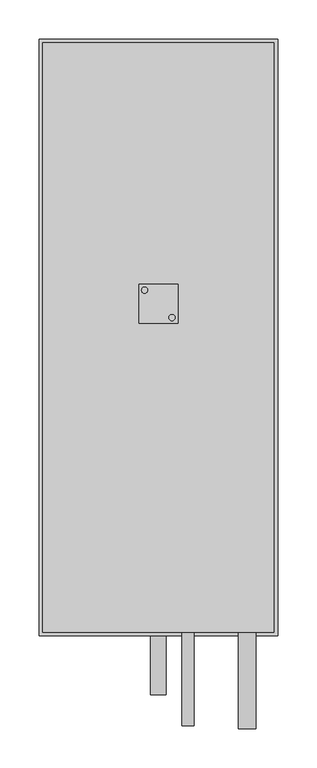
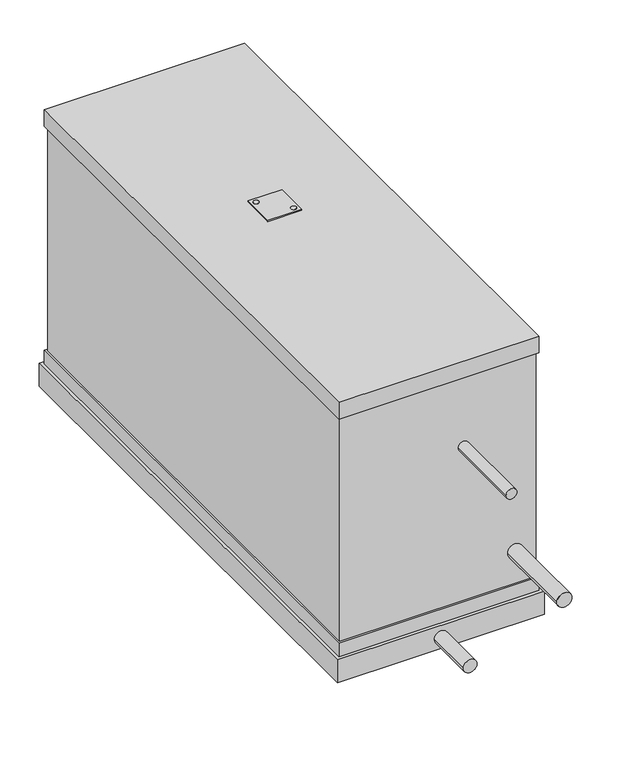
"""IFC4 building model written with IfcOpenShell, lengths in millimetres: proxy geometry, KORF_Воздухоохладитель_Фреоновый_FLO_Левый : FLO 60-35."""

from ifc_helpers import new_model, si_unit, point, frame, frame_2d, origin, place, context, project, spatial, polyline, circle_curve, trimmed, segment, composite_curve, outline, extrude, faceted_brep, source, transform, mapped, element, save


def mechanical_equipment_1e1dd59d(model_context):
    return source(origin(), model_context, "Body", "SolidModel", [
        extrude(outline(composite_curve([segment(trimmed(circle_curve(frame_2d((170.5727066, -17.5745746)), 4.0), [point((174.5727066, -17.5745746))], [point((166.5727066, -17.5745746))], False, "CARTESIAN"), True, "CONTINUOUS"), segment(trimmed(circle_curve(frame_2d((170.5727066, -17.5745746)), 4.0), [point((166.5727066, -17.5745746))], [point((174.5727066, -17.5745746))], False, "CARTESIAN"), True, "CONTINUOUS")], self_intersect=False)), frame((0.0, 0.0, 201.0), z_axis=(0.0, 0.0, 1.0), x_axis=(1.0, 0.0, 0.0)), (0.0, 0.0, 1.0), 2.0),
        extrude(outline(composite_curve([segment(trimmed(circle_curve(frame_2d((135.4272934, 17.5745746)), 4.0), [point((131.4272934, 17.5745746))], [point((139.4272934, 17.5745746))], False, "CARTESIAN"), True, "CONTINUOUS"), segment(trimmed(circle_curve(frame_2d((135.4272934, 17.5745746)), 4.0), [point((139.4272934, 17.5745746))], [point((131.4272934, 17.5745746))], False, "CARTESIAN"), True, "CONTINUOUS")], self_intersect=False)), frame((0.0, 0.0, 201.0), z_axis=(0.0, 0.0, 1.0), x_axis=(1.0, 0.0, 0.0)), (0.0, 0.0, 1.0), 2.0),
        extrude(outline(polyline([(128.0, -25.0), (128.0, 25.0), (178.0, 25.0), (178.0, -25.0), (128.0, -25.0)]), holes=[composite_curve([segment(trimmed(circle_curve(frame_2d((170.5727066, -17.5745746)), 4.0), [point((174.5727066, -17.5745746))], [point((166.5727066, -17.5745746))], True, "CARTESIAN"), True, "CONTINUOUS"), segment(trimmed(circle_curve(frame_2d((170.5727066, -17.5745746)), 4.0), [point((166.5727066, -17.5745746))], [point((174.5727066, -17.5745746))], True, "CARTESIAN"), True, "CONTINUOUS")], self_intersect=False), composite_curve([segment(trimmed(circle_curve(frame_2d((135.4272934, 17.5745746)), 4.0), [point((131.4272934, 17.5745746))], [point((139.4272934, 17.5745746))], True, "CARTESIAN"), True, "CONTINUOUS"), segment(trimmed(circle_curve(frame_2d((135.4272934, 17.5745746)), 4.0), [point((139.4272934, 17.5745746))], [point((131.4272934, 17.5745746))], True, "CARTESIAN"), True, "CONTINUOUS")], self_intersect=False)]), frame((0.0, 0.0, 201.0), z_axis=(0.0, 0.0, 1.0), x_axis=(1.0, 0.0, 0.0)), (0.0, 0.0, 1.0), 2.0),
        faceted_brep([(306.0, -425.0, -196.0), (306.0, -425.0, -232.0), (306.0, 339.0, -232.0), (306.0, 339.0, -196.0), (0.0, -425.0, -196.0), (0.0, 339.0, -196.0), (0.0, 339.0, -232.0), (0.0, -425.0, -232.0), (301.0, 334.0, -196.0), (301.0, -420.0, -196.0), (5.0, -420.0, -196.0), (5.0, 334.0, -196.0), (298.0, -417.0, 175.0), (298.0, -417.0, -175.0), (298.0, -300.0, -175.0), (298.0, 300.0, -175.0), (298.0, 331.0, -175.0), (298.0, 331.0, 175.0), (298.0, 300.0, 175.0), (298.0, -300.0, 175.0), (8.0, 331.0, 175.0), (8.0, 331.0, -175.0), (8.0, 300.0, -175.0), (8.0, -300.0, -175.0), (8.0, -417.0, -175.0), (8.0, -417.0, 175.0), (8.0, -300.0, 175.0), (8.0, 300.0, 175.0), (301.0, -420.0, 175.0), (301.0, 334.0, 175.0), (301.0, 334.0, 201.0), (301.0, -420.0, 201.0), (301.0, -420.0, -175.0), (301.0, 334.0, -175.0), (5.0, -420.0, 175.0), (5.0, -420.0, 201.0), (5.0, 334.0, 201.0), (5.0, 334.0, 175.0), (5.0, -420.0, -175.0), (5.0, 334.0, -175.0)], [[[0, 1, 2, 3]], [[4, 5, 6, 7]], [[1, 0, 4, 7]], [[2, 1, 7, 6]], [[3, 2, 6, 5]], [[0, 3, 5, 4], [8, 9, 10, 11]], [[12, 13, 14, 15, 16, 17, 18, 19]], [[20, 21, 22, 23, 24, 25, 26, 27]], [[13, 12, 25, 24]], [[17, 16, 21, 20]], [[28, 29, 30, 31]], [[32, 9, 8, 33]], [[34, 35, 36, 37]], [[38, 39, 11, 10]], [[29, 28, 34, 37], [12, 19, 18, 17, 20, 27, 26, 25]], [[30, 29, 37, 36]], [[31, 30, 36, 35]], [[28, 31, 35, 34]], [[9, 32, 38, 10]], [[33, 8, 11, 39]], [[32, 33, 39, 38], [14, 13, 24, 23, 22, 21, 16, 15]]]),
        extrude(outline(composite_curve([segment(trimmed(circle_curve(frame_2d((-124.0, 267.0)), 11.11), [point((-124.0, 255.89))], [point((-124.0, 278.11))], False, "CARTESIAN"), True, "CONTINUOUS"), segment(trimmed(circle_curve(frame_2d((-124.0, 267.0)), 11.11), [point((-124.0, 278.11))], [point((-124.0, 255.89))], False, "CARTESIAN"), True, "CONTINUOUS")], self_intersect=False)), frame((0.0, -544.0, 0.0), z_axis=(0.0, 1.0, 0.0), x_axis=(0.0, 0.0, 1.0)), (0.0, 0.0, 1.0), 127.0),
        extrude(outline(composite_curve([segment(trimmed(circle_curve(frame_2d((66.0, 191.0)), 7.94), [point((66.0, 183.06))], [point((66.0, 198.94))], False, "CARTESIAN"), True, "CONTINUOUS"), segment(trimmed(circle_curve(frame_2d((66.0, 191.0)), 7.94), [point((66.0, 198.94))], [point((66.0, 183.06))], False, "CARTESIAN"), True, "CONTINUOUS")], self_intersect=False)), frame((0.0, -540.0, 0.0), z_axis=(0.0, 1.0, 0.0), x_axis=(0.0, 0.0, 1.0)), (0.0, 0.0, 1.0), 123.0),
        extrude(outline(composite_curve([segment(trimmed(circle_curve(frame_2d((-214.0, 153.0)), 10.0), [point((-214.0, 143.0))], [point((-214.0, 163.0))], False, "CARTESIAN"), True, "CONTINUOUS"), segment(trimmed(circle_curve(frame_2d((-214.0, 153.0)), 10.0), [point((-214.0, 163.0))], [point((-214.0, 143.0))], False, "CARTESIAN"), True, "CONTINUOUS")], self_intersect=False)), frame((0.0, -500.0, 0.0), z_axis=(0.0, 1.0, 0.0), x_axis=(0.0, 0.0, 1.0)), (0.0, 0.0, 1.0), 75.0),
    ])


if __name__ == "__main__":
    model = new_model("IFC4")
    model_context = context("Model", 3, world=origin())
    ifc_project = project(units=[si_unit("LENGTHUNIT", "METRE", prefix="MILLI")], contexts=[model_context])
    site = spatial("IfcSite", under=ifc_project)
    building = spatial("IfcBuilding", under=site)
    placement = place(None, origin())
    mechanical_equipment_shape = mechanical_equipment_1e1dd59d(model_context)
    element("IfcBuildingElementProxy", 1, Name="KORF_Воздухоохладитель_Фреоновый_FLO_Левый : FLO 60-35", ObjectType="KORF_Воздухоохладитель_Фреоновый_FLO_Левый : FLO 60-35", at=placement, inside=building, context=model_context, shape_type="MappedRepresentation", body=[
        mapped(mechanical_equipment_shape, transform((0.0, 0.0, 0.0), x_axis=(1.0, 0.0, 0.0), y_axis=(0.0, 1.0, 0.0), z_axis=(0.0, 0.0, 1.0))),
    ])
    save(model, "model.ifc")
